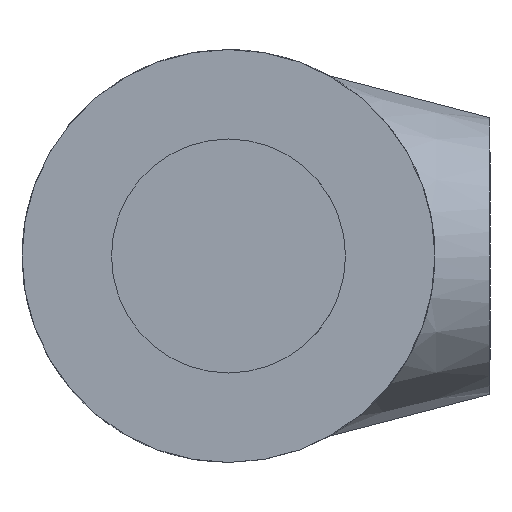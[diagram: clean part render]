
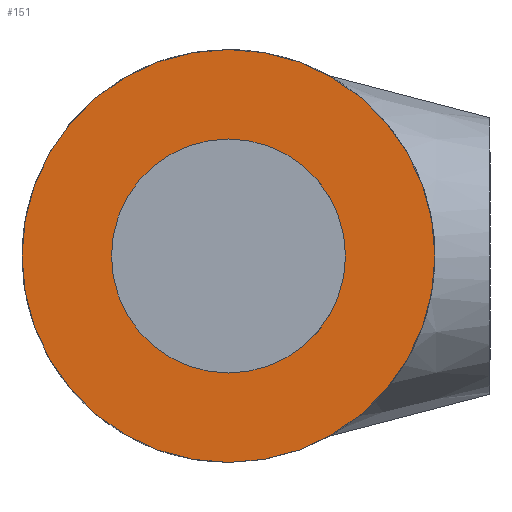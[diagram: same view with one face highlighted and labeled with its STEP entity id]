
A CAD part, front view. The second image highlights one B-rep face of the part: STEP entity #151.
In plain terms, the highlighted planar face has unit normal (0, -1, 0).
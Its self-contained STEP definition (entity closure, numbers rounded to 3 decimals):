
#20 = VERTEX_POINT ( 'NONE', #193 ) ;
#21 = ORIENTED_EDGE ( 'NONE', *, *, #176, .F. ) ;
#32 = ORIENTED_EDGE ( 'NONE', *, *, #121, .F. ) ;
#43 = EDGE_LOOP ( 'NONE', ( #159, #32 ) ) ;
#49 = EDGE_CURVE ( 'NONE', #118, #115, #332, .T. ) ;
#59 = EDGE_CURVE ( 'NONE', #20, #61, #314, .T. ) ;
#61 = VERTEX_POINT ( 'NONE', #359 ) ;
#115 = VERTEX_POINT ( 'NONE', #470 ) ;
#118 = VERTEX_POINT ( 'NONE', #439 ) ;
#121 = EDGE_CURVE ( 'NONE', #115, #118, #436, .T. ) ;
#151 = ADVANCED_FACE ( 'NONE', ( #770, #756 ), #755, .F. ) ;
#159 = ORIENTED_EDGE ( 'NONE', *, *, #49, .F. ) ;
#175 = ORIENTED_EDGE ( 'NONE', *, *, #59, .F. ) ;
#176 = EDGE_CURVE ( 'NONE', #61, #20, #668, .T. ) ;
#193 = CARTESIAN_POINT ( 'NONE',  ( 0., 0., 7.5 ) ) ;
#212 = EDGE_LOOP ( 'NONE', ( #175, #21 ) ) ;
#314 = CIRCLE ( 'NONE', #358, 7.5 ) ;
#322 = DIRECTION ( 'NONE',  ( 0., 0., -1. ) ) ;
#323 = DIRECTION ( 'NONE',  ( 0., -1., 0. ) ) ;
#324 = CARTESIAN_POINT ( 'NONE',  ( 0., 0., 0. ) ) ;
#325 = AXIS2_PLACEMENT_3D ( 'NONE', #324, #323, #322 ) ;
#332 = CIRCLE ( 'NONE', #325, 4.25 ) ;
#355 = DIRECTION ( 'NONE',  ( 0., 0., 1. ) ) ;
#356 = DIRECTION ( 'NONE',  ( 0., 1., 0. ) ) ;
#357 = CARTESIAN_POINT ( 'NONE',  ( 0., 0., 0. ) ) ;
#358 = AXIS2_PLACEMENT_3D ( 'NONE', #357, #356, #355 ) ;
#359 = CARTESIAN_POINT ( 'NONE',  ( 0., 0., -7.5 ) ) ;
#429 = DIRECTION ( 'NONE',  ( 0., 0., -1. ) ) ;
#430 = DIRECTION ( 'NONE',  ( 0., -1., 0. ) ) ;
#431 = CARTESIAN_POINT ( 'NONE',  ( 0., 0., 0. ) ) ;
#436 = CIRCLE ( 'NONE', #446, 4.25 ) ;
#439 = CARTESIAN_POINT ( 'NONE',  ( 0., 0., -4.25 ) ) ;
#446 = AXIS2_PLACEMENT_3D ( 'NONE', #431, #430, #429 ) ;
#470 = CARTESIAN_POINT ( 'NONE',  ( 0., 0., 4.25 ) ) ;
#618 = DIRECTION ( 'NONE',  ( 0., 0., 1. ) ) ;
#619 = AXIS2_PLACEMENT_3D ( 'NONE', #663, #662, #661 ) ;
#661 = DIRECTION ( 'NONE',  ( 0., 0., 1. ) ) ;
#662 = DIRECTION ( 'NONE',  ( 0., 1., 0. ) ) ;
#663 = CARTESIAN_POINT ( 'NONE',  ( 0., 0., 0. ) ) ;
#668 = CIRCLE ( 'NONE', #619, 7.5 ) ;
#755 = PLANE ( 'NONE',  #802 ) ;
#756 = FACE_OUTER_BOUND ( 'NONE', #212, .T. ) ;
#765 = DIRECTION ( 'NONE',  ( 0., 1., 0. ) ) ;
#770 = FACE_BOUND ( 'NONE', #43, .T. ) ;
#800 = CARTESIAN_POINT ( 'NONE',  ( 0., 0., 0. ) ) ;
#802 = AXIS2_PLACEMENT_3D ( 'NONE', #800, #765, #618 ) ;
